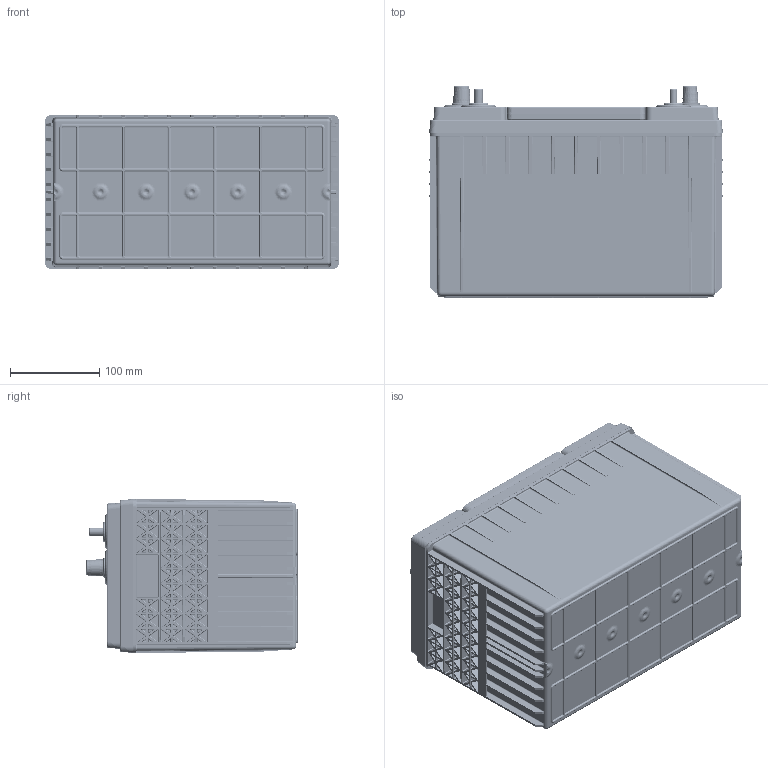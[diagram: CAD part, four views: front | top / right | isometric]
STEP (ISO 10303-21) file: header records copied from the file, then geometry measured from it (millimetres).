
FILE_DESCRIPTION (( 'STEP AP203' ), '1' );
FILE_NAME ('ODX-AGM31M.STEP', '2024-02-26T19:23:07', ( '' ), ( '' ), 'SwSTEP 2.0', 'SolidWorks 2022', '' );
FILE_SCHEMA (( 'CONFIG_CONTROL_DESIGN' ));
Length unit declared in the file: inch
Products named in the file (1): ODX-AGM31M
Bounding box: 329.95 x 236.35 x 172.41 mm (x, y, z)
Volume: 1938184.9 mm3; surface area: 1300495.7 mm2
Topology: 21 solids, 21 shells, 11891 faces, 29922 edges, 16906 vertices
Faces by surface type: cylinder 4366, plane 3453, bspline 2683, torus 616, cone 434, sphere 339
Full cylindrical faces by diameter (mm): 7.62 x2, 7.937 x2, 7.938 x1, 8.001 x6, 9.525 x3, 10.8 x2, 11.989 x34, 12.192 x4, 14.288 x2, 15.875 x2, 19.05 x4, 22.225 x4, 22.86 x4, 23.813 x2, 30.956 x4
Entity records: 394273 total; most frequent: CARTESIAN_POINT 150722, ORIENTED_EDGE 56344, DIRECTION 45664, EDGE_CURVE 28172, VERTEX_POINT 16773, AXIS2_PLACEMENT_3D 16172, LINE 13320, VECTOR 13320
